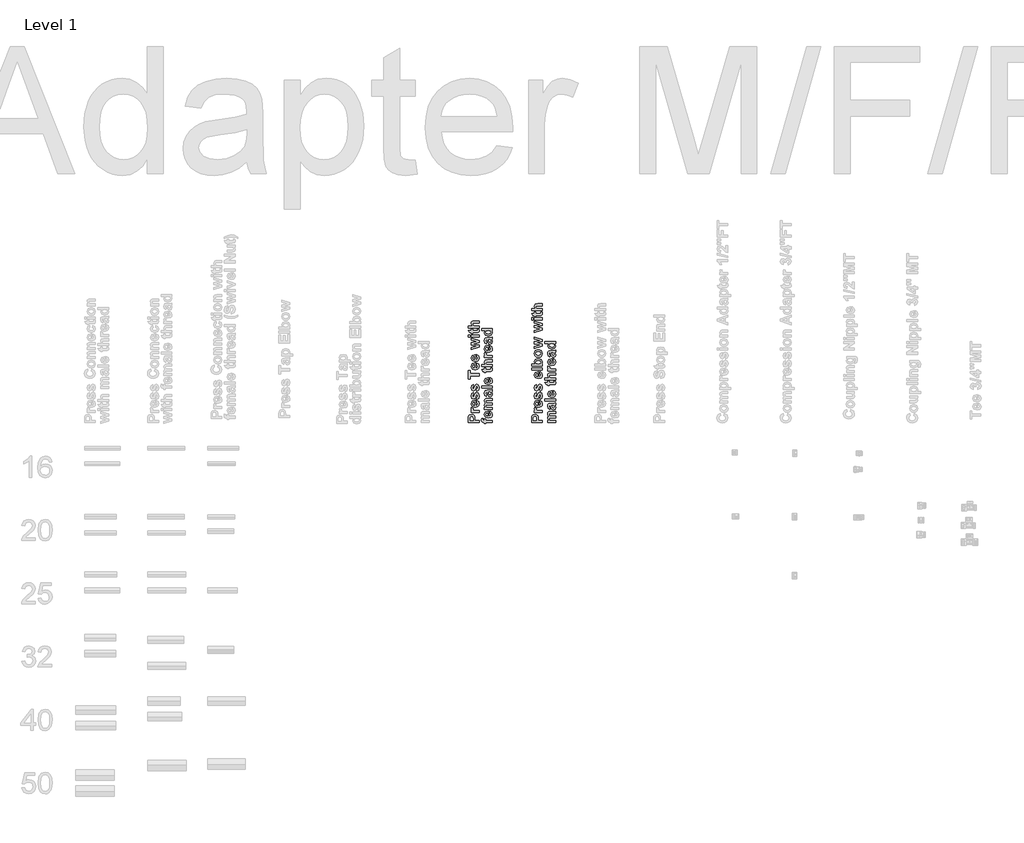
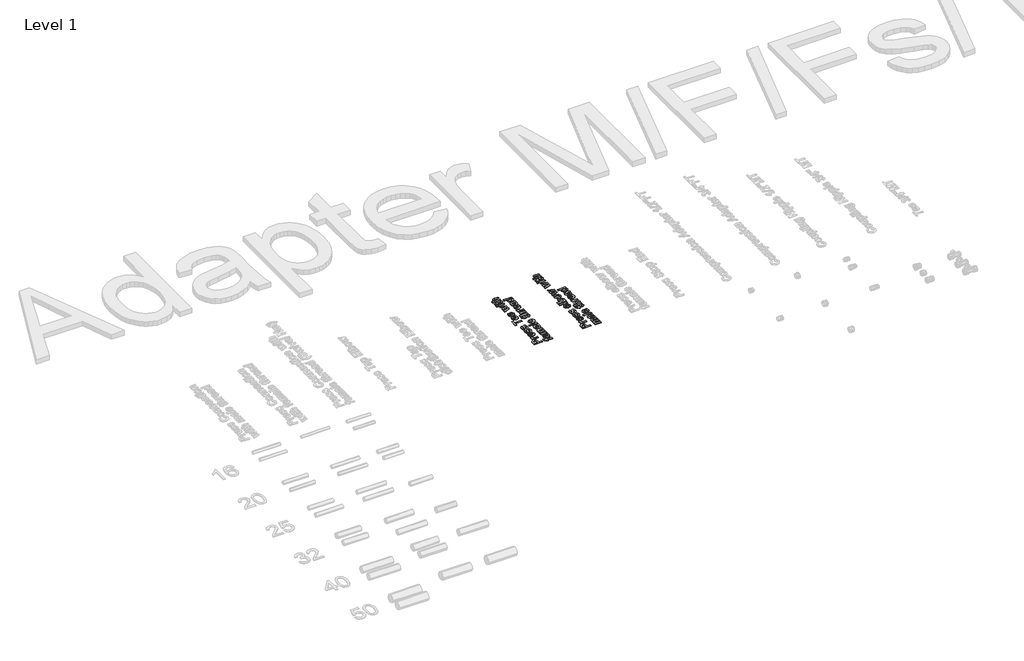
# One storey, part 45 of 58: 2 proxies.
"""IFC4 building model written with IfcOpenShell, lengths in millimetres."""

from ifc_helpers import new_model, si_unit, frame, origin, place, context, project, spatial, polyline, outline, extrude, element, save

model = new_model("IFC4")

# Units and contexts
model_context = context("Model", 3, world=origin())
ifc_project = project(units=[si_unit("LENGTHUNIT", "METRE", prefix="MILLI")], contexts=[model_context])

# Site, building, storey
site = spatial("IfcSite", under=ifc_project)
building = spatial("IfcBuilding", under=site)
storey = spatial("IfcBuildingStorey", under=building, Name="Level 1", Elevation=27.3876384)

# Proxies
placement = place(None, origin())
element("IfcBuildingElementProxy", 1, Name="50mm Arial", ObjectType="50mm Arial", at=placement, inside=storey, context=model_context, shape_type="SweptSolid", body=[
    extrude(outline(polyline([(31239.1417262, 30406.1759681), (31188.1287562, 30406.1759681), (31188.1287562, 30422.6109503), (31188.8878778, 30434.7948516), (31193.8537981, 30442.1013968), (31203.7287046, 30445.0429929), (31211.5792869, 30443.3159913), (31216.5768373, 30438.9257382), (31218.9870483, 30433.516997), (31219.7082138, 30422.6995145), (31219.7082138, 30415.8927243), (31239.1417262, 30415.8927243), (31239.1417262, 30406.1759681)]), holes=[polyline([(31197.0357827, 30415.8927243), (31210.8011873, 30415.8927243), (31210.8011873, 30421.9277409), (31210.0420657, 30430.638661), (31207.6571588, 30434.0800121), (31203.8805289, 30435.3262367), (31199.5155798, 30433.5739311), (31197.3647354, 30429.1520479), (31197.0357827, 30421.2192274), (31197.0357827, 30415.8927243)])]), frame((0.0, 0.0, 27.3876384), z_axis=(0.0, 0.0, 1.0), x_axis=(1.0, 0.0, 0.0)), (0.0, 0.0, 1.0), 2.0),
    extrude(outline(polyline([(31239.1417262, 30462.8570459), (31239.1417262, 30453.1402897), (31201.8941608, 30453.1402897), (31201.8941608, 30462.8570459), (31207.0814916, 30462.8570459), (31202.2420915, 30466.741218), (31201.0844311, 30470.6633461), (31203.1340594, 30476.6224505), (31212.3826906, 30473.7883966), (31210.8011873, 30469.2842753), (31211.9082396, 30465.8619022), (31215.8999539, 30463.6604496), (31227.995291, 30462.8570459), (31239.1417262, 30462.8570459)])), frame((0.0, 0.0, 27.3876384), z_axis=(0.0, 0.0, 1.0), x_axis=(1.0, 0.0, 0.0)), (0.0, 0.0, 1.0), 2.0),
    extrude(outline(polyline([(31227.8055106, 30501.7240707), (31229.42497, 30511.4408269), (31237.2629003, 30505.6461988), (31239.9514559, 30495.7396622), (31238.3667896, 30487.5506382), (31233.6127907, 30481.8097813), (31220.7962881, 30478.2419099), (31206.32237, 30482.9737677), (31201.0844311, 30494.9425846), (31206.4615423, 30507.7590872), (31222.9471325, 30512.2505566), (31222.9471325, 30487.9586661), (31230.1081794, 30490.2486828), (31232.6638887, 30495.7017062), (31231.5125543, 30499.4340539), (31227.8055106, 30501.7240707)]), holes=[polyline([(31217.2790248, 30502.5338004), (31210.643037, 30500.3703039), (31208.3719982, 30495.3601015), (31210.7632312, 30490.1474666), (31217.2790248, 30488.1231424), (31217.2790248, 30502.5338004)])]), frame((0.0, 0.0, 27.3876384), z_axis=(0.0, 0.0, 1.0), x_axis=(1.0, 0.0, 0.0)), (0.0, 0.0, 1.0), 2.0),
    extrude(outline(polyline([(31228.6152403, 30515.4894753), (31226.9957809, 30525.2062315), (31231.2215577, 30527.6923546), (31232.6638887, 30532.9366195), (31231.2848179, 30538.5161631), (31228.7038045, 30539.7813658), (31226.8819127, 30539.1108084), (31225.604058, 30535.9351498), (31220.8468962, 30521.3726675), (31212.4839068, 30517.1089346), (31204.3739579, 30520.7653702), (31201.0844311, 30532.1142378), (31203.7413566, 30542.9823284), (31211.610917, 30547.8786626), (31213.2303763, 30538.1619064), (31209.6245488, 30536.2894065), (31208.3719982, 30532.3672784), (31209.4347685, 30527.7492888), (31211.4084846, 30526.8256908), (31213.1671162, 30527.7492888), (31215.8873019, 30536.3463406), (31220.2269469, 30546.61346), (31227.527166, 30549.4981219), (31236.2886943, 30545.3166273), (31239.9514559, 30532.9366195), (31236.9023175, 30521.1639091), (31228.6152403, 30515.4894753)])), frame((0.0, 0.0, 27.3876384), z_axis=(0.0, 0.0, 1.0), x_axis=(1.0, 0.0, 0.0)), (0.0, 0.0, 1.0), 2.0),
    extrude(outline(polyline([(31228.6152403, 30554.3565), (31226.9957809, 30564.0732562), (31231.2215577, 30566.5593794), (31232.6638887, 30571.8036443), (31231.2848179, 30577.3831879), (31228.7038045, 30578.6483905), (31226.8819127, 30577.9778331), (31225.604058, 30574.8021745), (31220.8468962, 30560.2396923), (31212.4839068, 30555.9759594), (31204.3739579, 30559.632395), (31201.0844311, 30570.9812626), (31203.7413566, 30581.8493532), (31211.610917, 30586.7456873), (31213.2303763, 30577.0289312), (31209.6245488, 30575.1564313), (31208.3719982, 30571.2343031), (31209.4347685, 30566.6163135), (31211.4084846, 30565.6927156), (31213.1671162, 30566.6163135), (31215.8873019, 30575.2133654), (31220.2269469, 30585.4804847), (31227.527166, 30588.3651467), (31236.2886943, 30584.183652), (31239.9514559, 30571.8036443), (31236.9023175, 30560.0309338), (31228.6152403, 30554.3565)])), frame((0.0, 0.0, 27.3876384), z_axis=(0.0, 0.0, 1.0), x_axis=(1.0, 0.0, 0.0)), (0.0, 0.0, 1.0), 2.0),
    extrude(outline(polyline([(31239.1417262, 30628.0419011), (31197.0357827, 30628.0419011), (31197.0357827, 30613.4667669), (31188.1287562, 30613.4667669), (31188.1287562, 30652.3337916), (31197.0357827, 30652.3337916), (31197.0357827, 30637.7586573), (31239.1417262, 30637.7586573), (31239.1417262, 30628.0419011)])), frame((0.0, 0.0, 27.3876384), z_axis=(0.0, 0.0, 1.0), x_axis=(1.0, 0.0, 0.0)), (0.0, 0.0, 1.0), 2.0),
    extrude(outline(polyline([(31227.8055106, 30679.8646008), (31229.42497, 30689.581357), (31237.2629003, 30683.786729), (31239.9514559, 30673.8801924), (31238.3667896, 30665.6911684), (31233.6127907, 30659.9503115), (31220.7962881, 30656.38244), (31206.32237, 30661.1142979), (31201.0844311, 30673.0831147), (31206.4615423, 30685.8996174), (31222.9471325, 30690.3910867), (31222.9471325, 30666.0991962), (31230.1081794, 30668.389213), (31232.6638887, 30673.8422363), (31231.5125543, 30677.5745841), (31227.8055106, 30679.8646008)]), holes=[polyline([(31217.2790248, 30680.6743305), (31210.643037, 30678.510834), (31208.3719982, 30673.5006316), (31210.7632312, 30668.2879968), (31217.2790248, 30666.2636726), (31217.2790248, 30680.6743305)])]), frame((0.0, 0.0, 27.3876384), z_axis=(0.0, 0.0, 1.0), x_axis=(1.0, 0.0, 0.0)), (0.0, 0.0, 1.0), 2.0),
    extrude(outline(polyline([(31227.8055106, 30718.7316256), (31229.42497, 30728.4483818), (31237.2629003, 30722.6537537), (31239.9514559, 30712.7472172), (31238.3667896, 30704.5581931), (31233.6127907, 30698.8173362), (31220.7962881, 30695.2494648), (31206.32237, 30699.9813226), (31201.0844311, 30711.9501395), (31206.4615423, 30724.7666421), (31222.9471325, 30729.2581115), (31222.9471325, 30704.966221), (31230.1081794, 30707.2562377), (31232.6638887, 30712.7092611), (31231.5125543, 30716.4416088), (31227.8055106, 30718.7316256)]), holes=[polyline([(31217.2790248, 30719.5413553), (31210.643037, 30717.3778588), (31208.3719982, 30712.3676564), (31210.7632312, 30707.1550215), (31217.2790248, 30705.1306973), (31217.2790248, 30719.5413553)])]), frame((0.0, 0.0, 27.3876384), z_axis=(0.0, 0.0, 1.0), x_axis=(1.0, 0.0, 0.0)), (0.0, 0.0, 1.0), 2.0),
    extrude(outline(polyline([(31239.1417262, 30763.7475351), (31201.8941608, 30751.9305426), (31201.8941608, 30761.5334305), (31226.2999195, 30768.5300011), (31201.8941608, 30775.0710987), (31201.8941608, 30784.8131589), (31226.2999195, 30791.2024322), (31201.8941608, 30798.2243068), (31201.8941608, 30807.8018907), (31239.1417262, 30796.0102022), (31239.1417262, 30786.4705743), (31215.1914404, 30779.8662166), (31239.1417262, 30773.4263352), (31239.1417262, 30763.7475351)])), frame((0.0, 0.0, 27.3876384), z_axis=(0.0, 0.0, 1.0), x_axis=(1.0, 0.0, 0.0)), (0.0, 0.0, 1.0), 2.0),
    extrude(outline(polyline([(31197.0357827, 30812.6602688), (31188.1287562, 30812.6602688), (31188.1287562, 30822.377025), (31197.0357827, 30822.377025), (31197.0357827, 30812.6602688)])), frame((0.0, 0.0, 27.3876384), z_axis=(0.0, 0.0, 1.0), x_axis=(1.0, 0.0, 0.0)), (0.0, 0.0, 1.0), 2.0),
    extrude(outline(polyline([(31239.1417262, 30812.6602688), (31201.8941608, 30812.6602688), (31201.8941608, 30822.377025), (31239.1417262, 30822.377025), (31239.1417262, 30812.6602688)])), frame((0.0, 0.0, 27.3876384), z_axis=(0.0, 0.0, 1.0), x_axis=(1.0, 0.0, 0.0)), (0.0, 0.0, 1.0), 2.0),
    extrude(outline(polyline([(31201.8941608, 30849.9078342), (31209.1817279, 30849.9078342), (31209.1817279, 30842.620267), (31225.1612371, 30842.620267), (31230.8103669, 30842.8416775), (31232.1388296, 30843.8475136), (31232.6638887, 30845.7579695), (31231.7276388, 30850.312699), (31238.6356451, 30850.7175638), (31239.9514559, 30842.7594393), (31239.04051, 30837.8504531), (31236.6872331, 30834.6431644), (31232.777757, 30833.2198115), (31225.7052743, 30832.9035108), (31209.1817279, 30832.9035108), (31209.1817279, 30828.0451327), (31201.8941608, 30828.0451327), (31201.8941608, 30832.9035108), (31194.6065936, 30832.9035108), (31188.9384859, 30842.620267), (31201.8941608, 30842.620267), (31201.8941608, 30849.9078342)])), frame((0.0, 0.0, 27.3876384), z_axis=(0.0, 0.0, 1.0), x_axis=(1.0, 0.0, 0.0)), (0.0, 0.0, 1.0), 2.0),
    extrude(outline(polyline([(31188.1287562, 30865.2926981), (31206.6007146, 30865.2926981), (31201.0844311, 30876.4138292), (31202.3433077, 30882.4108897), (31205.5695744, 30886.4342341), (31209.9155455, 30888.2814299), (31217.3043288, 30888.7748589), (31239.1417262, 30888.7748589), (31239.1417262, 30879.0581027), (31219.328653, 30879.0581027), (31211.8323274, 30878.5140656), (31209.3082482, 30876.5909576), (31208.3719982, 30873.1496064), (31209.5739407, 30868.8985256), (31213.1924203, 30866.1593619), (31220.3534671, 30865.2926981), (31239.1417262, 30865.2926981), (31239.1417262, 30855.5759419), (31188.1287562, 30855.5759419), (31188.1287562, 30865.2926981)])), frame((0.0, 0.0, 27.3876384), z_axis=(0.0, 0.0, 1.0), x_axis=(1.0, 0.0, 0.0)), (0.0, 0.0, 1.0), 2.0),
    extrude(outline(polyline([(31264.8498357, 30402.1273197), (31264.8498357, 30406.9856978), (31262.1296501, 30406.9856978), (31255.3355119, 30407.9725559), (31251.6854023, 30411.6036874), (31250.2747014, 30418.2966093), (31251.4892959, 30426.4192102), (31258.1063057, 30425.2046157), (31257.5622686, 30420.6878423), (31258.5364746, 30417.6323779), (31262.2814744, 30416.702454), (31264.8498357, 30416.702454), (31264.8498357, 30423.9900212), (31272.1374028, 30423.9900212), (31272.1374028, 30416.702454), (31302.0974011, 30416.702454), (31302.0974011, 30406.9856978), (31272.1374028, 30406.9856978), (31272.1374028, 30402.1273197), (31264.8498357, 30402.1273197)])), frame((0.0, 0.0, 27.3876384), z_axis=(0.0, 0.0, 1.0), x_axis=(1.0, 0.0, 0.0)), (0.0, 0.0, 1.0), 2.0),
    extrude(outline(polyline([(31290.7611855, 30450.7111007), (31292.3806449, 30460.4278569), (31300.2185752, 30454.6332288), (31302.9071308, 30444.7266922), (31301.3224645, 30436.5376682), (31296.5684656, 30430.7968113), (31283.751963, 30427.2289399), (31269.2780449, 30431.9607977), (31264.040106, 30443.9296146), (31269.4172172, 30456.7461172), (31285.9028074, 30461.2375866), (31285.9028074, 30436.9456961), (31293.0638543, 30439.2357128), (31295.6195636, 30444.6887362), (31294.4682292, 30448.4210839), (31290.7611855, 30450.7111007)]), holes=[polyline([(31280.2346997, 30451.5208304), (31273.5987119, 30449.3573339), (31271.3276732, 30444.3471315), (31273.7189061, 30439.1344966), (31280.2346997, 30437.1101724), (31280.2346997, 30451.5208304)])]), frame((0.0, 0.0, 27.3876384), z_axis=(0.0, 0.0, 1.0), x_axis=(1.0, 0.0, 0.0)), (0.0, 0.0, 1.0), 2.0),
    extrude(outline(polyline([(31264.8498357, 30467.715424), (31264.8498357, 30477.4321802), (31269.8347341, 30477.4321802), (31264.040106, 30488.3002708), (31265.463459, 30494.1138769), (31269.7714739, 30498.1561993), (31265.463459, 30503.324552), (31264.040106, 30509.2520263), (31265.7038475, 30516.0208604), (31270.5938556, 30520.170725), (31278.2989396, 30521.1575831), (31302.0974011, 30521.1575831), (31302.0974011, 30511.4408269), (31280.6522165, 30511.4408269), (31273.4532136, 30510.4539688), (31271.3276732, 30506.3800164), (31272.5992018, 30502.6160385), (31276.3252235, 30500.0729812), (31284.0809157, 30499.2948816), (31302.0974011, 30499.2948816), (31302.0974011, 30489.5781254), (31281.5378584, 30489.5781254), (31274.4717017, 30489.0720444), (31272.1057728, 30487.5095191), (31271.3276732, 30484.6311832), (31272.5612457, 30480.696403), (31276.1291171, 30478.1913018), (31283.8658312, 30477.4321802), (31302.0974011, 30477.4321802), (31302.0974011, 30467.715424), (31264.8498357, 30467.715424)])), frame((0.0, 0.0, 27.3876384), z_axis=(0.0, 0.0, 1.0), x_axis=(1.0, 0.0, 0.0)), (0.0, 0.0, 1.0), 2.0),
    extrude(outline(polyline([(31276.1860513, 30538.9716361), (31274.5665919, 30530.0646096), (31266.6211194, 30534.9546177), (31264.040106, 30545.2596931), (31265.6026313, 30554.5083244), (31269.5627155, 30558.7847092), (31278.3748518, 30560.0246078), (31289.8628917, 30560.0246078), (31297.0998507, 30560.5370149), (31302.0974011, 30562.4537969), (31302.0974011, 30552.7370407), (31299.0103067, 30551.8260948), (31301.6229501, 30546.2845073), (31302.9071308, 30540.376011), (31299.7884063, 30531.6397868), (31291.9125199, 30528.4451502), (31286.2950203, 30529.8685032), (31282.5120644, 30533.8602175), (31280.2220476, 30541.2616528), (31277.8055106, 30550.3078516), (31272.5802238, 30549.0995831), (31271.3276732, 30544.5511797), (31272.4030954, 30541.0212643), (31276.1860513, 30538.9716361)]), holes=[polyline([(31285.0930778, 30550.3078516), (31286.4405186, 30544.8295242), (31287.9777398, 30539.920538), (31291.0774862, 30538.1619064), (31294.2721228, 30539.5726073), (31295.6195636, 30543.1594568), (31294.0507124, 30547.8027504), (31291.1407463, 30549.9535949), (31286.8517094, 30550.3078516), (31285.0930778, 30550.3078516)])]), frame((0.0, 0.0, 27.3876384), z_axis=(0.0, 0.0, 1.0), x_axis=(1.0, 0.0, 0.0)), (0.0, 0.0, 1.0), 2.0),
    extrude(outline(polyline([(31302.0974011, 30569.741364), (31251.0844311, 30569.741364), (31251.0844311, 30579.4581202), (31302.0974011, 30579.4581202), (31302.0974011, 30569.741364)])), frame((0.0, 0.0, 27.3876384), z_axis=(0.0, 0.0, 1.0), x_axis=(1.0, 0.0, 0.0)), (0.0, 0.0, 1.0), 2.0),
    extrude(outline(polyline([(31290.7611855, 30610.2278481), (31292.3806449, 30619.9446043), (31300.2185752, 30614.1499763), (31302.9071308, 30604.2434397), (31301.3224645, 30596.0544157), (31296.5684656, 30590.3135588), (31283.751963, 30586.7456873), (31269.2780449, 30591.4775452), (31264.040106, 30603.446362), (31269.4172172, 30616.2628647), (31285.9028074, 30620.754334), (31285.9028074, 30596.4624435), (31293.0638543, 30598.7524603), (31295.6195636, 30604.2054836), (31294.4682292, 30607.9378314), (31290.7611855, 30610.2278481)]), holes=[polyline([(31280.2346997, 30611.0375778), (31273.5987119, 30608.8740813), (31271.3276732, 30603.8638789), (31273.7189061, 30598.6512441), (31280.2346997, 30596.6269199), (31280.2346997, 30611.0375778)])]), frame((0.0, 0.0, 27.3876384), z_axis=(0.0, 0.0, 1.0), x_axis=(1.0, 0.0, 0.0)), (0.0, 0.0, 1.0), 2.0),
    extrude(outline(polyline([(31264.8498357, 30665.2894665), (31272.1374028, 30665.2894665), (31272.1374028, 30658.0018994), (31288.116912, 30658.0018994), (31293.7660418, 30658.2233099), (31295.0945045, 30659.229146), (31295.6195636, 30661.1396019), (31294.6833137, 30665.6943314), (31301.59132, 30666.0991962), (31302.9071308, 30658.1410717), (31301.9961849, 30653.2320855), (31299.642908, 30650.0247968), (31295.7334319, 30648.6014439), (31288.6609492, 30648.2851432), (31272.1374028, 30648.2851432), (31272.1374028, 30643.4267651), (31264.8498357, 30643.4267651), (31264.8498357, 30648.2851432), (31257.5622686, 30648.2851432), (31251.8941608, 30658.0018994), (31264.8498357, 30658.0018994), (31264.8498357, 30665.2894665)])), frame((0.0, 0.0, 27.3876384), z_axis=(0.0, 0.0, 1.0), x_axis=(1.0, 0.0, 0.0)), (0.0, 0.0, 1.0), 2.0),
    extrude(outline(polyline([(31251.0844311, 30680.6743305), (31269.5563895, 30680.6743305), (31264.040106, 30691.7954616), (31265.2989826, 30697.7925221), (31268.5252493, 30701.8158664), (31272.8712204, 30703.6630623), (31280.2600037, 30704.1564913), (31302.0974011, 30704.1564913), (31302.0974011, 30694.4397351), (31282.2843279, 30694.4397351), (31274.7880024, 30693.895698), (31272.2639231, 30691.97259), (31271.3276732, 30688.5312388), (31272.5296157, 30684.280158), (31276.1480952, 30681.5409943), (31283.3091421, 30680.6743305), (31302.0974011, 30680.6743305), (31302.0974011, 30670.9575743), (31251.0844311, 30670.9575743), (31251.0844311, 30680.6743305)])), frame((0.0, 0.0, 27.3876384), z_axis=(0.0, 0.0, 1.0), x_axis=(1.0, 0.0, 0.0)), (0.0, 0.0, 1.0), 2.0),
    extrude(outline(polyline([(31302.0974011, 30723.5900037), (31302.0974011, 30713.8732475), (31264.8498357, 30713.8732475), (31264.8498357, 30723.5900037), (31270.0371665, 30723.5900037), (31265.1977664, 30727.4741758), (31264.040106, 30731.3963039), (31266.0897343, 30737.3554083), (31275.3383655, 30734.5213544), (31273.7568622, 30730.017233), (31274.8639145, 30726.5948599), (31278.8556288, 30724.3934074), (31290.9509659, 30723.5900037), (31302.0974011, 30723.5900037)])), frame((0.0, 0.0, 27.3876384), z_axis=(0.0, 0.0, 1.0), x_axis=(1.0, 0.0, 0.0)), (0.0, 0.0, 1.0), 2.0),
    extrude(outline(polyline([(31290.7611855, 30762.4570284), (31292.3806449, 30772.1737846), (31300.2185752, 30766.3791566), (31302.9071308, 30756.47262), (31301.3224645, 30748.283596), (31296.5684656, 30742.5427391), (31283.751963, 30738.9748677), (31269.2780449, 30743.7067255), (31264.040106, 30755.6755424), (31269.4172172, 30768.492045), (31285.9028074, 30772.9835143), (31285.9028074, 30748.6916238), (31293.0638543, 30750.9816406), (31295.6195636, 30756.4346639), (31294.4682292, 30760.1670117), (31290.7611855, 30762.4570284)]), holes=[polyline([(31280.2346997, 30763.2667581), (31273.5987119, 30761.1032616), (31271.3276732, 30756.0930592), (31273.7189061, 30750.8804244), (31280.2346997, 30748.8561002), (31280.2346997, 30763.2667581)])]), frame((0.0, 0.0, 27.3876384), z_axis=(0.0, 0.0, 1.0), x_axis=(1.0, 0.0, 0.0)), (0.0, 0.0, 1.0), 2.0),
    extrude(outline(polyline([(31276.1860513, 30788.3683783), (31274.5665919, 30779.4613518), (31266.6211194, 30784.3513599), (31264.040106, 30794.6564354), (31265.6026313, 30803.9050666), (31269.5627155, 30808.1814515), (31278.3748518, 30809.42135), (31289.8628917, 30809.42135), (31297.0998507, 30809.9337571), (31302.0974011, 30811.8505391), (31302.0974011, 30802.1337829), (31299.0103067, 30801.222837), (31301.6229501, 30795.6812495), (31302.9071308, 30789.7727532), (31299.7884063, 30781.0365291), (31291.9125199, 30777.8418924), (31286.2950203, 30779.2652454), (31282.5120644, 30783.2569597), (31280.2220476, 30790.658395), (31277.8055106, 30799.7045938), (31272.5802238, 30798.4963253), (31271.3276732, 30793.9479219), (31272.4030954, 30790.4180065), (31276.1860513, 30788.3683783)]), holes=[polyline([(31285.0930778, 30799.7045938), (31286.4405186, 30794.2262665), (31287.9777398, 30789.3172803), (31291.0774862, 30787.5586486), (31294.2721228, 30788.9693495), (31295.6195636, 30792.556199), (31294.0507124, 30797.1994926), (31291.1407463, 30799.3503371), (31286.8517094, 30799.7045938), (31285.0930778, 30799.7045938)])]), frame((0.0, 0.0, 27.3876384), z_axis=(0.0, 0.0, 1.0), x_axis=(1.0, 0.0, 0.0)), (0.0, 0.0, 1.0), 2.0),
    extrude(outline(polyline([(31302.0974011, 30852.3370232), (31302.0974011, 30842.620267), (31296.732942, 30842.620267), (31301.3825616, 30837.4898704), (31302.9071308, 30831.537092), (31297.7451041, 30821.0675402), (31283.3344461, 30816.7089172), (31268.9617442, 30821.0612142), (31264.040106, 30832.0684771), (31269.1388726, 30842.620267), (31251.0844311, 30842.620267), (31251.0844311, 30852.3370232), (31302.0974011, 30852.3370232)]), holes=[polyline([(31282.7651049, 30826.4256734), (31291.6468274, 30828.0451327), (31295.6195636, 30834.5862303), (31292.6400114, 30840.2796422), (31283.739311, 30842.620267), (31274.2313132, 30840.3492283), (31271.3276732, 30834.5229702), (31274.1996831, 30828.7536462), (31282.7651049, 30826.4256734)])]), frame((0.0, 0.0, 27.3876384), z_axis=(0.0, 0.0, 1.0), x_axis=(1.0, 0.0, 0.0)), (0.0, 0.0, 1.0), 2.0),
])
element("IfcBuildingElementProxy", 2, Name="50mm Arial", ObjectType="50mm Arial", at=placement, inside=storey, context=model_context, shape_type="SweptSolid", body=[
    extrude(outline(polyline([(31539.1417262, 30406.1759681), (31488.1287562, 30406.1759681), (31488.1287562, 30422.6109503), (31488.8878778, 30434.7948516), (31493.8537981, 30442.1013968), (31503.7287046, 30445.0429929), (31511.5792869, 30443.3159913), (31516.5768373, 30438.9257382), (31518.9870483, 30433.516997), (31519.7082138, 30422.6995145), (31519.7082138, 30415.8927243), (31539.1417262, 30415.8927243), (31539.1417262, 30406.1759681)]), holes=[polyline([(31497.0357827, 30415.8927243), (31510.8011873, 30415.8927243), (31510.8011873, 30421.9277409), (31510.0420657, 30430.638661), (31507.6571588, 30434.0800121), (31503.8805289, 30435.3262367), (31499.5155798, 30433.5739311), (31497.3647354, 30429.1520479), (31497.0357827, 30421.2192274), (31497.0357827, 30415.8927243)])]), frame((0.0, 0.0, 27.3876384), z_axis=(0.0, 0.0, 1.0), x_axis=(1.0, 0.0, 0.0)), (0.0, 0.0, 1.0), 2.0),
    extrude(outline(polyline([(31539.1417262, 30462.8570459), (31539.1417262, 30453.1402897), (31501.8941608, 30453.1402897), (31501.8941608, 30462.8570459), (31507.0814916, 30462.8570459), (31502.2420915, 30466.741218), (31501.0844311, 30470.6633461), (31503.1340594, 30476.6224505), (31512.3826906, 30473.7883966), (31510.8011873, 30469.2842753), (31511.9082396, 30465.8619022), (31515.8999539, 30463.6604496), (31527.995291, 30462.8570459), (31539.1417262, 30462.8570459)])), frame((0.0, 0.0, 27.3876384), z_axis=(0.0, 0.0, 1.0), x_axis=(1.0, 0.0, 0.0)), (0.0, 0.0, 1.0), 2.0),
    extrude(outline(polyline([(31527.8055106, 30501.7240707), (31529.42497, 30511.4408269), (31537.2629003, 30505.6461988), (31539.9514559, 30495.7396622), (31538.3667896, 30487.5506382), (31533.6127907, 30481.8097813), (31520.7962881, 30478.2419099), (31506.32237, 30482.9737677), (31501.0844311, 30494.9425846), (31506.4615423, 30507.7590872), (31522.9471325, 30512.2505566), (31522.9471325, 30487.9586661), (31530.1081794, 30490.2486828), (31532.6638887, 30495.7017062), (31531.5125543, 30499.4340539), (31527.8055106, 30501.7240707)]), holes=[polyline([(31517.2790248, 30502.5338004), (31510.643037, 30500.3703039), (31508.3719982, 30495.3601015), (31510.7632312, 30490.1474666), (31517.2790248, 30488.1231424), (31517.2790248, 30502.5338004)])]), frame((0.0, 0.0, 27.3876384), z_axis=(0.0, 0.0, 1.0), x_axis=(1.0, 0.0, 0.0)), (0.0, 0.0, 1.0), 2.0),
    extrude(outline(polyline([(31528.6152403, 30515.4894753), (31526.9957809, 30525.2062315), (31531.2215577, 30527.6923546), (31532.6638887, 30532.9366195), (31531.2848179, 30538.5161631), (31528.7038045, 30539.7813658), (31526.8819127, 30539.1108084), (31525.604058, 30535.9351498), (31520.8468962, 30521.3726675), (31512.4839068, 30517.1089346), (31504.3739579, 30520.7653702), (31501.0844311, 30532.1142378), (31503.7413566, 30542.9823284), (31511.610917, 30547.8786626), (31513.2303763, 30538.1619064), (31509.6245488, 30536.2894065), (31508.3719982, 30532.3672784), (31509.4347685, 30527.7492888), (31511.4084846, 30526.8256908), (31513.1671162, 30527.7492888), (31515.8873019, 30536.3463406), (31520.2269469, 30546.61346), (31527.527166, 30549.4981219), (31536.2886943, 30545.3166273), (31539.9514559, 30532.9366195), (31536.9023175, 30521.1639091), (31528.6152403, 30515.4894753)])), frame((0.0, 0.0, 27.3876384), z_axis=(0.0, 0.0, 1.0), x_axis=(1.0, 0.0, 0.0)), (0.0, 0.0, 1.0), 2.0),
    extrude(outline(polyline([(31528.6152403, 30554.3565), (31526.9957809, 30564.0732562), (31531.2215577, 30566.5593794), (31532.6638887, 30571.8036443), (31531.2848179, 30577.3831879), (31528.7038045, 30578.6483905), (31526.8819127, 30577.9778331), (31525.604058, 30574.8021745), (31520.8468962, 30560.2396923), (31512.4839068, 30555.9759594), (31504.3739579, 30559.632395), (31501.0844311, 30570.9812626), (31503.7413566, 30581.8493532), (31511.610917, 30586.7456873), (31513.2303763, 30577.0289312), (31509.6245488, 30575.1564313), (31508.3719982, 30571.2343031), (31509.4347685, 30566.6163135), (31511.4084846, 30565.6927156), (31513.1671162, 30566.6163135), (31515.8873019, 30575.2133654), (31520.2269469, 30585.4804847), (31527.527166, 30588.3651467), (31536.2886943, 30584.183652), (31539.9514559, 30571.8036443), (31536.9023175, 30560.0309338), (31528.6152403, 30554.3565)])), frame((0.0, 0.0, 27.3876384), z_axis=(0.0, 0.0, 1.0), x_axis=(1.0, 0.0, 0.0)), (0.0, 0.0, 1.0), 2.0),
    extrude(outline(polyline([(31527.8055106, 30637.7586573), (31529.42497, 30647.4754135), (31537.2629003, 30641.6807855), (31539.9514559, 30631.7742489), (31538.3667896, 30623.5852249), (31533.6127907, 30617.844368), (31520.7962881, 30614.2764965), (31506.32237, 30619.0083544), (31501.0844311, 30630.9771712), (31506.4615423, 30643.7936739), (31522.9471325, 30648.2851432), (31522.9471325, 30623.9932527), (31530.1081794, 30626.2832695), (31532.6638887, 30631.7362928), (31531.5125543, 30635.4686406), (31527.8055106, 30637.7586573)]), holes=[polyline([(31517.2790248, 30638.568387), (31510.643037, 30636.4048905), (31508.3719982, 30631.3946881), (31510.7632312, 30626.1820533), (31517.2790248, 30624.1577291), (31517.2790248, 30638.568387)])]), frame((0.0, 0.0, 27.3876384), z_axis=(0.0, 0.0, 1.0), x_axis=(1.0, 0.0, 0.0)), (0.0, 0.0, 1.0), 2.0),
    extrude(outline(polyline([(31539.1417262, 30655.5727104), (31488.1287562, 30655.5727104), (31488.1287562, 30665.2894665), (31539.1417262, 30665.2894665), (31539.1417262, 30655.5727104)])), frame((0.0, 0.0, 27.3876384), z_axis=(0.0, 0.0, 1.0), x_axis=(1.0, 0.0, 0.0)), (0.0, 0.0, 1.0), 2.0),
    extrude(outline(polyline([(31539.1417262, 30675.0062227), (31488.1287562, 30675.0062227), (31488.1287562, 30684.7229789), (31506.1831977, 30684.7229789), (31501.0844311, 30695.2747689), (31506.0060693, 30706.2820317), (31520.1383827, 30710.6343288), (31534.8020812, 30706.3073358), (31539.9514559, 30695.806154), (31538.3952566, 30689.8154195), (31533.777267, 30684.7229789), (31539.1417262, 30684.7229789), (31539.1417262, 30675.0062227)]), holes=[polyline([(31519.80943, 30684.7229789), (31528.6152403, 30686.5195667), (31532.6638887, 30693.1998365), (31529.7918788, 30698.6591859), (31520.758332, 30700.9175726), (31511.2756383, 30698.6465339), (31508.3719982, 30692.8202758), (31511.2060521, 30687.0319737), (31519.80943, 30684.7229789)])]), frame((0.0, 0.0, 27.3876384), z_axis=(0.0, 0.0, 1.0), x_axis=(1.0, 0.0, 0.0)), (0.0, 0.0, 1.0), 2.0),
    extrude(outline(polyline([(31519.9865584, 30715.4927069), (31510.5038647, 30717.8902658), (31503.5009681, 30724.6780779), (31501.0844311, 30734.4833983), (31506.5627585, 30748.2045208), (31520.4167273, 30753.5500019), (31534.4035423, 30748.1475867), (31539.9514559, 30734.5593105), (31537.6424611, 30724.8868364), (31530.867301, 30717.8902658), (31519.9865584, 30715.4927069)]), holes=[polyline([(31520.5179435, 30725.2094631), (31529.5325122, 30727.8980186), (31532.6638887, 30734.5340064), (31529.5325122, 30741.1573422), (31520.4420313, 30743.8332457), (31511.5033747, 30741.1573422), (31508.3719982, 30734.5340064), (31511.5033747, 30727.8980186), (31520.5179435, 30725.2094631)])]), frame((0.0, 0.0, 27.3876384), z_axis=(0.0, 0.0, 1.0), x_axis=(1.0, 0.0, 0.0)), (0.0, 0.0, 1.0), 2.0),
    extrude(outline(polyline([(31539.1417262, 30768.6059132), (31501.8941608, 30756.7889207), (31501.8941608, 30766.3918086), (31526.2999195, 30773.3883792), (31501.8941608, 30779.9294768), (31501.8941608, 30789.671537), (31526.2999195, 30796.0608103), (31501.8941608, 30803.0826849), (31501.8941608, 30812.6602688), (31539.1417262, 30800.8685803), (31539.1417262, 30791.3289524), (31515.1914404, 30784.7245947), (31539.1417262, 30778.2847133), (31539.1417262, 30768.6059132)])), frame((0.0, 0.0, 27.3876384), z_axis=(0.0, 0.0, 1.0), x_axis=(1.0, 0.0, 0.0)), (0.0, 0.0, 1.0), 2.0),
    extrude(outline(polyline([(31539.1417262, 30844.7205034), (31501.8941608, 30832.9035108), (31501.8941608, 30842.5063988), (31526.2999195, 30849.5029693), (31501.8941608, 30856.0440669), (31501.8941608, 30865.7861271), (31526.2999195, 30872.1754004), (31501.8941608, 30879.197275), (31501.8941608, 30888.7748589), (31539.1417262, 30876.9831704), (31539.1417262, 30867.4435426), (31515.1914404, 30860.8391849), (31539.1417262, 30854.3993035), (31539.1417262, 30844.7205034)])), frame((0.0, 0.0, 27.3876384), z_axis=(0.0, 0.0, 1.0), x_axis=(1.0, 0.0, 0.0)), (0.0, 0.0, 1.0), 2.0),
    extrude(outline(polyline([(31497.0357827, 30893.633237), (31488.1287562, 30893.633237), (31488.1287562, 30903.3499932), (31497.0357827, 30903.3499932), (31497.0357827, 30893.633237)])), frame((0.0, 0.0, 27.3876384), z_axis=(0.0, 0.0, 1.0), x_axis=(1.0, 0.0, 0.0)), (0.0, 0.0, 1.0), 2.0),
    extrude(outline(polyline([(31539.1417262, 30893.633237), (31501.8941608, 30893.633237), (31501.8941608, 30903.3499932), (31539.1417262, 30903.3499932), (31539.1417262, 30893.633237)])), frame((0.0, 0.0, 27.3876384), z_axis=(0.0, 0.0, 1.0), x_axis=(1.0, 0.0, 0.0)), (0.0, 0.0, 1.0), 2.0),
    extrude(outline(polyline([(31501.8941608, 30930.8808024), (31509.1817279, 30930.8808024), (31509.1817279, 30923.5932353), (31525.1612371, 30923.5932353), (31530.8103669, 30923.8146457), (31532.1388296, 30924.8204818), (31532.6638887, 30926.7309378), (31531.7276388, 30931.2856672), (31538.6356451, 30931.6905321), (31539.9514559, 30923.7324076), (31539.04051, 30918.8234214), (31536.6872331, 30915.6161327), (31532.777757, 30914.1927797), (31525.7052743, 30913.8764791), (31509.1817279, 30913.8764791), (31509.1817279, 30909.018101), (31501.8941608, 30909.018101), (31501.8941608, 30913.8764791), (31494.6065936, 30913.8764791), (31488.9384859, 30923.5932353), (31501.8941608, 30923.5932353), (31501.8941608, 30930.8808024)])), frame((0.0, 0.0, 27.3876384), z_axis=(0.0, 0.0, 1.0), x_axis=(1.0, 0.0, 0.0)), (0.0, 0.0, 1.0), 2.0),
    extrude(outline(polyline([(31488.1287562, 30946.2656664), (31506.6007146, 30946.2656664), (31501.0844311, 30957.3867975), (31502.3433077, 30963.3838579), (31505.5695744, 30967.4072023), (31509.9155455, 30969.2543981), (31517.3043288, 30969.7478272), (31539.1417262, 30969.7478272), (31539.1417262, 30960.031071), (31519.328653, 30960.031071), (31511.8323274, 30959.4870338), (31509.3082482, 30957.5639259), (31508.3719982, 30954.1225747), (31509.5739407, 30949.8714939), (31513.1924203, 30947.1323302), (31520.3534671, 30946.2656664), (31539.1417262, 30946.2656664), (31539.1417262, 30936.5489102), (31488.1287562, 30936.5489102), (31488.1287562, 30946.2656664)])), frame((0.0, 0.0, 27.3876384), z_axis=(0.0, 0.0, 1.0), x_axis=(1.0, 0.0, 0.0)), (0.0, 0.0, 1.0), 2.0),
    extrude(outline(polyline([(31564.8498357, 30405.3662385), (31564.8498357, 30415.0829947), (31569.8347341, 30415.0829947), (31564.040106, 30425.9510852), (31565.463459, 30431.7646913), (31569.7714739, 30435.8070137), (31565.463459, 30440.9753665), (31564.040106, 30446.9028408), (31565.7038475, 30453.6716748), (31570.5938556, 30457.8215395), (31578.2989396, 30458.8083975), (31602.0974011, 30458.8083975), (31602.0974011, 30449.0916413), (31580.6522165, 30449.0916413), (31573.4532136, 30448.1047833), (31571.3276732, 30444.0308308), (31572.5992018, 30440.266853), (31576.3252235, 30437.7237957), (31584.0809157, 30436.9456961), (31602.0974011, 30436.9456961), (31602.0974011, 30427.2289399), (31581.5378584, 30427.2289399), (31574.4717017, 30426.7228588), (31572.1057728, 30425.1603336), (31571.3276732, 30422.2819976), (31572.5612457, 30418.3472174), (31576.1291171, 30415.8421162), (31583.8658312, 30415.0829947), (31602.0974011, 30415.0829947), (31602.0974011, 30405.3662385), (31564.8498357, 30405.3662385)])), frame((0.0, 0.0, 27.3876384), z_axis=(0.0, 0.0, 1.0), x_axis=(1.0, 0.0, 0.0)), (0.0, 0.0, 1.0), 2.0),
    extrude(outline(polyline([(31576.1860513, 30476.6224505), (31574.5665919, 30467.715424), (31566.6211194, 30472.6054322), (31564.040106, 30482.9105076), (31565.6026313, 30492.1591388), (31569.5627155, 30496.4355237), (31578.3748518, 30497.6754223), (31589.8628917, 30497.6754223), (31597.0998507, 30498.1878293), (31602.0974011, 30500.1046113), (31602.0974011, 30490.3878551), (31599.0103067, 30489.4769092), (31601.6229501, 30483.9353217), (31602.9071308, 30478.0268254), (31599.7884063, 30469.2906013), (31591.9125199, 30466.0959646), (31586.2950203, 30467.5193176), (31582.5120644, 30471.5110319), (31580.2220476, 30478.9124673), (31577.8055106, 30487.9586661), (31572.5802238, 30486.7503976), (31571.3276732, 30482.2019941), (31572.4030954, 30478.6720788), (31576.1860513, 30476.6224505)]), holes=[polyline([(31585.0930778, 30487.9586661), (31586.4405186, 30482.4803387), (31587.9777398, 30477.5713525), (31591.0774862, 30475.8127208), (31594.2721228, 30477.2234218), (31595.6195636, 30480.8102712), (31594.0507124, 30485.4535649), (31591.1407463, 30487.6044093), (31586.8517094, 30487.9586661), (31585.0930778, 30487.9586661)])]), frame((0.0, 0.0, 27.3876384), z_axis=(0.0, 0.0, 1.0), x_axis=(1.0, 0.0, 0.0)), (0.0, 0.0, 1.0), 2.0),
    extrude(outline(polyline([(31602.0974011, 30507.3921785), (31551.0844311, 30507.3921785), (31551.0844311, 30517.1089346), (31602.0974011, 30517.1089346), (31602.0974011, 30507.3921785)])), frame((0.0, 0.0, 27.3876384), z_axis=(0.0, 0.0, 1.0), x_axis=(1.0, 0.0, 0.0)), (0.0, 0.0, 1.0), 2.0),
    extrude(outline(polyline([(31590.7611855, 30547.8786626), (31592.3806449, 30557.5954188), (31600.2185752, 30551.8007907), (31602.9071308, 30541.8942541), (31601.3224645, 30533.7052301), (31596.5684656, 30527.9643732), (31583.751963, 30524.3965018), (31569.2780449, 30529.1283596), (31564.040106, 30541.0971765), (31569.4172172, 30553.9136791), (31585.9028074, 30558.4051485), (31585.9028074, 30534.113258), (31593.0638543, 30536.4032747), (31595.6195636, 30541.8562981), (31594.4682292, 30545.5886458), (31590.7611855, 30547.8786626)]), holes=[polyline([(31580.2346997, 30548.6883923), (31573.5987119, 30546.5248958), (31571.3276732, 30541.5146934), (31573.7189061, 30536.3020585), (31580.2346997, 30534.2777343), (31580.2346997, 30548.6883923)])]), frame((0.0, 0.0, 27.3876384), z_axis=(0.0, 0.0, 1.0), x_axis=(1.0, 0.0, 0.0)), (0.0, 0.0, 1.0), 2.0),
    extrude(outline(polyline([(31564.8498357, 30602.940281), (31572.1374028, 30602.940281), (31572.1374028, 30595.6527138), (31588.116912, 30595.6527138), (31593.7660418, 30595.8741243), (31595.0945045, 30596.8799604), (31595.6195636, 30598.7904164), (31594.6833137, 30603.3451458), (31601.59132, 30603.7500107), (31602.9071308, 30595.7918861), (31601.9961849, 30590.8828999), (31599.642908, 30587.6756113), (31595.7334319, 30586.2522583), (31588.6609492, 30585.9359577), (31572.1374028, 30585.9359577), (31572.1374028, 30581.0775796), (31564.8498357, 30581.0775796), (31564.8498357, 30585.9359577), (31557.5622686, 30585.9359577), (31551.8941608, 30595.6527138), (31564.8498357, 30595.6527138), (31564.8498357, 30602.940281)])), frame((0.0, 0.0, 27.3876384), z_axis=(0.0, 0.0, 1.0), x_axis=(1.0, 0.0, 0.0)), (0.0, 0.0, 1.0), 2.0),
    extrude(outline(polyline([(31551.0844311, 30618.325145), (31569.5563895, 30618.325145), (31564.040106, 30629.4462761), (31565.2989826, 30635.4433365), (31568.5252493, 30639.4666809), (31572.8712204, 30641.3138767), (31580.2600037, 30641.8073058), (31602.0974011, 30641.8073058), (31602.0974011, 30632.0905496), (31582.2843279, 30632.0905496), (31574.7880024, 30631.5465124), (31572.2639231, 30629.6234044), (31571.3276732, 30626.1820533), (31572.5296157, 30621.9309725), (31576.1480952, 30619.1918088), (31583.3091421, 30618.325145), (31602.0974011, 30618.325145), (31602.0974011, 30608.6083888), (31551.0844311, 30608.6083888), (31551.0844311, 30618.325145)])), frame((0.0, 0.0, 27.3876384), z_axis=(0.0, 0.0, 1.0), x_axis=(1.0, 0.0, 0.0)), (0.0, 0.0, 1.0), 2.0),
    extrude(outline(polyline([(31602.0974011, 30661.2408181), (31602.0974011, 30651.5240619), (31564.8498357, 30651.5240619), (31564.8498357, 30661.2408181), (31570.0371665, 30661.2408181), (31565.1977664, 30665.1249902), (31564.040106, 30669.0471184), (31566.0897343, 30675.0062227), (31575.3383655, 30672.1721688), (31573.7568622, 30667.6680475), (31574.8639145, 30664.2456744), (31578.8556288, 30662.0442218), (31590.9509659, 30661.2408181), (31602.0974011, 30661.2408181)])), frame((0.0, 0.0, 27.3876384), z_axis=(0.0, 0.0, 1.0), x_axis=(1.0, 0.0, 0.0)), (0.0, 0.0, 1.0), 2.0),
    extrude(outline(polyline([(31590.7611855, 30700.1078429), (31592.3806449, 30709.8245991), (31600.2185752, 30704.029971), (31602.9071308, 30694.1234345), (31601.3224645, 30685.9344104), (31596.5684656, 30680.1935535), (31583.751963, 30676.6256821), (31569.2780449, 30681.3575399), (31564.040106, 30693.3263568), (31569.4172172, 30706.1428594), (31585.9028074, 30710.6343288), (31585.9028074, 30686.3424383), (31593.0638543, 30688.632455), (31595.6195636, 30694.0854784), (31594.4682292, 30697.8178261), (31590.7611855, 30700.1078429)]), holes=[polyline([(31580.2346997, 30700.9175726), (31573.5987119, 30698.7540761), (31571.3276732, 30693.7438737), (31573.7189061, 30688.5312388), (31580.2346997, 30686.5069146), (31580.2346997, 30700.9175726)])]), frame((0.0, 0.0, 27.3876384), z_axis=(0.0, 0.0, 1.0), x_axis=(1.0, 0.0, 0.0)), (0.0, 0.0, 1.0), 2.0),
    extrude(outline(polyline([(31576.1860513, 30726.0191927), (31574.5665919, 30717.1121662), (31566.6211194, 30722.0021744), (31564.040106, 30732.3072498), (31565.6026313, 30741.555881), (31569.5627155, 30745.8322659), (31578.3748518, 30747.0721645), (31589.8628917, 30747.0721645), (31597.0998507, 30747.5845715), (31602.0974011, 30749.5013535), (31602.0974011, 30739.7845973), (31599.0103067, 30738.8736514), (31601.6229501, 30733.3320639), (31602.9071308, 30727.4235677), (31599.7884063, 30718.6873435), (31591.9125199, 30715.4927069), (31586.2950203, 30716.9160598), (31582.5120644, 30720.9077741), (31580.2220476, 30728.3092095), (31577.8055106, 30737.3554083), (31572.5802238, 30736.1471398), (31571.3276732, 30731.5987363), (31572.4030954, 30728.068821), (31576.1860513, 30726.0191927)]), holes=[polyline([(31585.0930778, 30737.3554083), (31586.4405186, 30731.8770809), (31587.9777398, 30726.9680947), (31591.0774862, 30725.2094631), (31594.2721228, 30726.620164), (31595.6195636, 30730.2070134), (31594.0507124, 30734.8503071), (31591.1407463, 30737.0011516), (31586.8517094, 30737.3554083), (31585.0930778, 30737.3554083)])]), frame((0.0, 0.0, 27.3876384), z_axis=(0.0, 0.0, 1.0), x_axis=(1.0, 0.0, 0.0)), (0.0, 0.0, 1.0), 2.0),
    extrude(outline(polyline([(31602.0974011, 30789.9878377), (31602.0974011, 30780.2710815), (31596.732942, 30780.2710815), (31601.3825616, 30775.1406848), (31602.9071308, 30769.1879064), (31597.7451041, 30758.7183547), (31583.3344461, 30754.3597316), (31568.9617442, 30758.7120287), (31564.040106, 30769.7192915), (31569.1388726, 30780.2710815), (31551.0844311, 30780.2710815), (31551.0844311, 30789.9878377), (31602.0974011, 30789.9878377)]), holes=[polyline([(31582.7651049, 30764.0764878), (31591.6468274, 30765.6959472), (31595.6195636, 30772.2370448), (31592.6400114, 30777.9304566), (31583.739311, 30780.2710815), (31574.2313132, 30778.0000427), (31571.3276732, 30772.1737846), (31574.1996831, 30766.4044606), (31582.7651049, 30764.0764878)])]), frame((0.0, 0.0, 27.3876384), z_axis=(0.0, 0.0, 1.0), x_axis=(1.0, 0.0, 0.0)), (0.0, 0.0, 1.0), 2.0),
])

save(model, "model.ifc")
